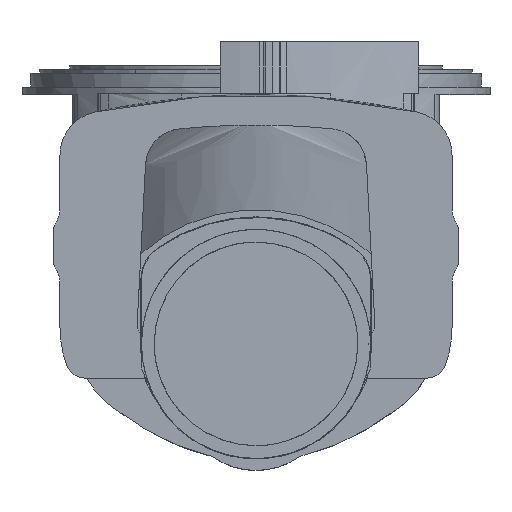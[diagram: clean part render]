
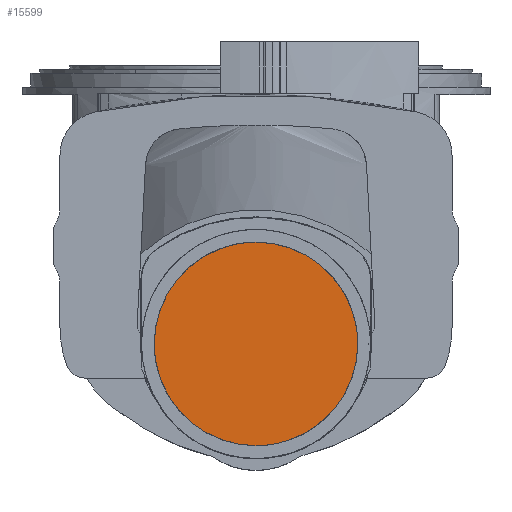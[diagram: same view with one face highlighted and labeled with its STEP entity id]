
A CAD part, front view. The second image highlights one B-rep face of the part: STEP entity #15599.
In plain terms, the highlighted planar face has unit normal (0, -1, 0).
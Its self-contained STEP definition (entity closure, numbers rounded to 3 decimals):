
#7877 = EDGE_CURVE ( 'NONE', #17617, #17348, #20042, .T. ) ;
#8272 = DIRECTION ( 'NONE',  ( 0., 0., 1. ) ) ;
#8273 = DIRECTION ( 'NONE',  ( 0., 1., 0. ) ) ;
#8274 = CARTESIAN_POINT ( 'NONE',  ( 1300., -1439., -71.75 ) ) ;
#8275 = AXIS2_PLACEMENT_3D ( 'NONE', #8274, #8273, #8272 ) ;
#8276 = PLANE ( 'NONE',  #8275 ) ;
#8292 = FACE_OUTER_BOUND ( 'NONE', #15600, .T. ) ;
#8295 = CARTESIAN_POINT ( 'NONE',  ( 1372.325, -1439., -35.658 ) ) ;
#8296 = CARTESIAN_POINT ( 'NONE',  ( 1376.356, -1439., -25.927 ) ) ;
#8297 = CARTESIAN_POINT ( 'NONE',  ( 1377.892, -1439., -20.863 ) ) ;
#8298 = CARTESIAN_POINT ( 'NONE',  ( 1379.947, -1439., -10.533 ) ) ;
#8299 = CARTESIAN_POINT ( 'NONE',  ( 1380.465, -1439., -5.266 ) ) ;
#8300 = CARTESIAN_POINT ( 'NONE',  ( 1380.465, -1439., 0. ) ) ;
#8311 = CARTESIAN_POINT ( 'NONE',  ( 1219.535, -1439., 0. ) ) ;
#8312 = CARTESIAN_POINT ( 'NONE',  ( 1219.535, -1439., -5.266 ) ) ;
#8313 = CARTESIAN_POINT ( 'NONE',  ( 1220.053, -1439., -10.533 ) ) ;
#8314 = CARTESIAN_POINT ( 'NONE',  ( 1222.108, -1439., -20.863 ) ) ;
#8315 = CARTESIAN_POINT ( 'NONE',  ( 1223.644, -1439., -25.927 ) ) ;
#8316 = CARTESIAN_POINT ( 'NONE',  ( 1227.675, -1439., -35.658 ) ) ;
#8317 = CARTESIAN_POINT ( 'NONE',  ( 1230.17, -1439., -40.325 ) ) ;
#8318 = CARTESIAN_POINT ( 'NONE',  ( 1236.021, -1439., -49.083 ) ) ;
#8319 = CARTESIAN_POINT ( 'NONE',  ( 1239.378, -1439., -53.174 ) ) ;
#8320 = CARTESIAN_POINT ( 'NONE',  ( 1246.826, -1439., -60.622 ) ) ;
#8321 = CARTESIAN_POINT ( 'NONE',  ( 1250.917, -1439., -63.979 ) ) ;
#8322 = CARTESIAN_POINT ( 'NONE',  ( 1259.675, -1439., -69.83 ) ) ;
#8323 = CARTESIAN_POINT ( 'NONE',  ( 1264.342, -1439., -72.325 ) ) ;
#8324 = CARTESIAN_POINT ( 'NONE',  ( 1274.073, -1439., -76.356 ) ) ;
#8325 = CARTESIAN_POINT ( 'NONE',  ( 1279.137, -1439., -77.892 ) ) ;
#8326 = CARTESIAN_POINT ( 'NONE',  ( 1289.467, -1439., -79.947 ) ) ;
#8327 = CARTESIAN_POINT ( 'NONE',  ( 1294.734, -1439., -80.465 ) ) ;
#8329 = B_SPLINE_CURVE_WITH_KNOTS ( 'NONE', 3,
 ( #8300, #8299, #8298, #8297, #8296, #8295, #8355, #8354, #8353, #8352, #8351, #8350, #8349, #8348, #8347, #8346, #8345, #8344 ),
 .UNSPECIFIED., .F., .F.,
 ( 4, 2, 2, 2, 2, 2, 2, 2, 4 ),
 ( 0.5, 0.563, 0.625, 0.688, 0.75, 0.813, 0.875, 0.938, 1. ),
 .UNSPECIFIED. ) ;
#8331 = CARTESIAN_POINT ( 'NONE',  ( 1300., -1439., -80.465 ) ) ;
#8332 = CARTESIAN_POINT ( 'NONE',  ( 1300., -1439., -80.465 ) ) ;
#8333 = B_SPLINE_CURVE_WITH_KNOTS ( 'NONE', 3,
 ( #8331, #8327, #8326, #8325, #8324, #8323, #8322, #8321, #8320, #8319, #8318, #8317, #8316, #8315, #8314, #8313, #8312, #8311 ),
 .UNSPECIFIED., .F., .F.,
 ( 4, 2, 2, 2, 2, 2, 2, 2, 4 ),
 ( 0., 0.063, 0.125, 0.188, 0.25, 0.313, 0.375, 0.438, 0.5 ),
 .UNSPECIFIED. ) ;
#8344 = CARTESIAN_POINT ( 'NONE',  ( 1300., -1439., -80.465 ) ) ;
#8345 = CARTESIAN_POINT ( 'NONE',  ( 1305.266, -1439., -80.465 ) ) ;
#8346 = CARTESIAN_POINT ( 'NONE',  ( 1310.533, -1439., -79.947 ) ) ;
#8347 = CARTESIAN_POINT ( 'NONE',  ( 1320.863, -1439., -77.892 ) ) ;
#8348 = CARTESIAN_POINT ( 'NONE',  ( 1325.927, -1439., -76.356 ) ) ;
#8349 = CARTESIAN_POINT ( 'NONE',  ( 1335.658, -1439., -72.325 ) ) ;
#8350 = CARTESIAN_POINT ( 'NONE',  ( 1340.325, -1439., -69.83 ) ) ;
#8351 = CARTESIAN_POINT ( 'NONE',  ( 1349.083, -1439., -63.979 ) ) ;
#8352 = CARTESIAN_POINT ( 'NONE',  ( 1353.174, -1439., -60.622 ) ) ;
#8353 = CARTESIAN_POINT ( 'NONE',  ( 1360.622, -1439., -53.174 ) ) ;
#8354 = CARTESIAN_POINT ( 'NONE',  ( 1363.979, -1439., -49.083 ) ) ;
#8355 = CARTESIAN_POINT ( 'NONE',  ( 1369.83, -1439., -40.325 ) ) ;
#9085 = CARTESIAN_POINT ( 'NONE',  ( 1300., -1439., 80.465 ) ) ;
#9113 = CARTESIAN_POINT ( 'NONE',  ( 1219.535, -1439., 0. ) ) ;
#9364 = CARTESIAN_POINT ( 'NONE',  ( 1349.083, -1439., 63.979 ) ) ;
#9365 = CARTESIAN_POINT ( 'NONE',  ( 1340.325, -1439., 69.83 ) ) ;
#9366 = CARTESIAN_POINT ( 'NONE',  ( 1335.658, -1439., 72.325 ) ) ;
#9367 = CARTESIAN_POINT ( 'NONE',  ( 1325.927, -1439., 76.356 ) ) ;
#9368 = CARTESIAN_POINT ( 'NONE',  ( 1320.863, -1439., 77.892 ) ) ;
#9369 = CARTESIAN_POINT ( 'NONE',  ( 1310.533, -1439., 79.947 ) ) ;
#9370 = CARTESIAN_POINT ( 'NONE',  ( 1305.266, -1439., 80.465 ) ) ;
#9375 = CARTESIAN_POINT ( 'NONE',  ( 1300., -1439., 80.465 ) ) ;
#9376 = B_SPLINE_CURVE_WITH_KNOTS ( 'NONE', 3,
 ( #9375, #9370, #9369, #9368, #9367, #9366, #9365, #9364, #9433, #9432, #9431, #9430, #9429, #9428, #9427, #9426, #9425, #9424 ),
 .UNSPECIFIED., .F., .F.,
 ( 4, 2, 2, 2, 2, 2, 2, 2, 4 ),
 ( 0., 0.063, 0.125, 0.188, 0.25, 0.313, 0.375, 0.438, 0.5 ),
 .UNSPECIFIED. ) ;
#9424 = CARTESIAN_POINT ( 'NONE',  ( 1380.465, -1439., 0. ) ) ;
#9425 = CARTESIAN_POINT ( 'NONE',  ( 1380.465, -1439., 5.266 ) ) ;
#9426 = CARTESIAN_POINT ( 'NONE',  ( 1379.947, -1439., 10.533 ) ) ;
#9427 = CARTESIAN_POINT ( 'NONE',  ( 1377.892, -1439., 20.863 ) ) ;
#9428 = CARTESIAN_POINT ( 'NONE',  ( 1376.356, -1439., 25.927 ) ) ;
#9429 = CARTESIAN_POINT ( 'NONE',  ( 1372.325, -1439., 35.658 ) ) ;
#9430 = CARTESIAN_POINT ( 'NONE',  ( 1369.83, -1439., 40.325 ) ) ;
#9431 = CARTESIAN_POINT ( 'NONE',  ( 1363.979, -1439., 49.083 ) ) ;
#9432 = CARTESIAN_POINT ( 'NONE',  ( 1360.622, -1439., 53.174 ) ) ;
#9433 = CARTESIAN_POINT ( 'NONE',  ( 1353.174, -1439., 60.622 ) ) ;
#9452 = CARTESIAN_POINT ( 'NONE',  ( 1380.465, -1439., 0. ) ) ;
#15599 = ADVANCED_FACE ( 'NONE', ( #8292 ), #8276, .F. ) ;
#15600 = EDGE_LOOP ( 'NONE', ( #15601, #15602, #15603, #15606 ) ) ;
#15601 = ORIENTED_EDGE ( 'NONE', *, *, #18998, .F. ) ;
#15602 = ORIENTED_EDGE ( 'NONE', *, *, #7877, .F. ) ;
#15603 = ORIENTED_EDGE ( 'NONE', *, *, #15604, .F. ) ;
#15604 = EDGE_CURVE ( 'NONE', #15605, #17617, #8333, .T. ) ;
#15605 = VERTEX_POINT ( 'NONE', #8332 ) ;
#15606 = ORIENTED_EDGE ( 'NONE', *, *, #15607, .F. ) ;
#15607 = EDGE_CURVE ( 'NONE', #19009, #15605, #8329, .T. ) ;
#17348 = VERTEX_POINT ( 'NONE', #9085 ) ;
#17617 = VERTEX_POINT ( 'NONE', #9113 ) ;
#18998 = EDGE_CURVE ( 'NONE', #17348, #19009, #9376, .T. ) ;
#19009 = VERTEX_POINT ( 'NONE', #9452 ) ;
#20017 = CARTESIAN_POINT ( 'NONE',  ( 1300., -1439., 80.465 ) ) ;
#20018 = CARTESIAN_POINT ( 'NONE',  ( 1294.734, -1439., 80.465 ) ) ;
#20019 = CARTESIAN_POINT ( 'NONE',  ( 1289.467, -1439., 79.947 ) ) ;
#20020 = CARTESIAN_POINT ( 'NONE',  ( 1279.137, -1439., 77.892 ) ) ;
#20021 = CARTESIAN_POINT ( 'NONE',  ( 1274.073, -1439., 76.356 ) ) ;
#20022 = CARTESIAN_POINT ( 'NONE',  ( 1264.342, -1439., 72.325 ) ) ;
#20024 = CARTESIAN_POINT ( 'NONE',  ( 1259.675, -1439., 69.83 ) ) ;
#20025 = CARTESIAN_POINT ( 'NONE',  ( 1250.917, -1439., 63.979 ) ) ;
#20026 = CARTESIAN_POINT ( 'NONE',  ( 1246.826, -1439., 60.622 ) ) ;
#20027 = CARTESIAN_POINT ( 'NONE',  ( 1239.378, -1439., 53.174 ) ) ;
#20028 = CARTESIAN_POINT ( 'NONE',  ( 1236.021, -1439., 49.083 ) ) ;
#20029 = CARTESIAN_POINT ( 'NONE',  ( 1230.17, -1439., 40.325 ) ) ;
#20030 = CARTESIAN_POINT ( 'NONE',  ( 1227.675, -1439., 35.658 ) ) ;
#20031 = CARTESIAN_POINT ( 'NONE',  ( 1223.644, -1439., 25.927 ) ) ;
#20032 = CARTESIAN_POINT ( 'NONE',  ( 1222.108, -1439., 20.863 ) ) ;
#20033 = CARTESIAN_POINT ( 'NONE',  ( 1220.053, -1439., 10.533 ) ) ;
#20034 = CARTESIAN_POINT ( 'NONE',  ( 1219.535, -1439., 5.266 ) ) ;
#20040 = CARTESIAN_POINT ( 'NONE',  ( 1219.535, -1439., 0. ) ) ;
#20042 = B_SPLINE_CURVE_WITH_KNOTS ( 'NONE', 3,
 ( #20040, #20034, #20033, #20032, #20031, #20030, #20029, #20028, #20027, #20026, #20025, #20024, #20022, #20021, #20020, #20019, #20018, #20017 ),
 .UNSPECIFIED., .F., .F.,
 ( 4, 2, 2, 2, 2, 2, 2, 2, 4 ),
 ( 0.5, 0.563, 0.625, 0.688, 0.75, 0.813, 0.875, 0.938, 1. ),
 .UNSPECIFIED. ) ;
